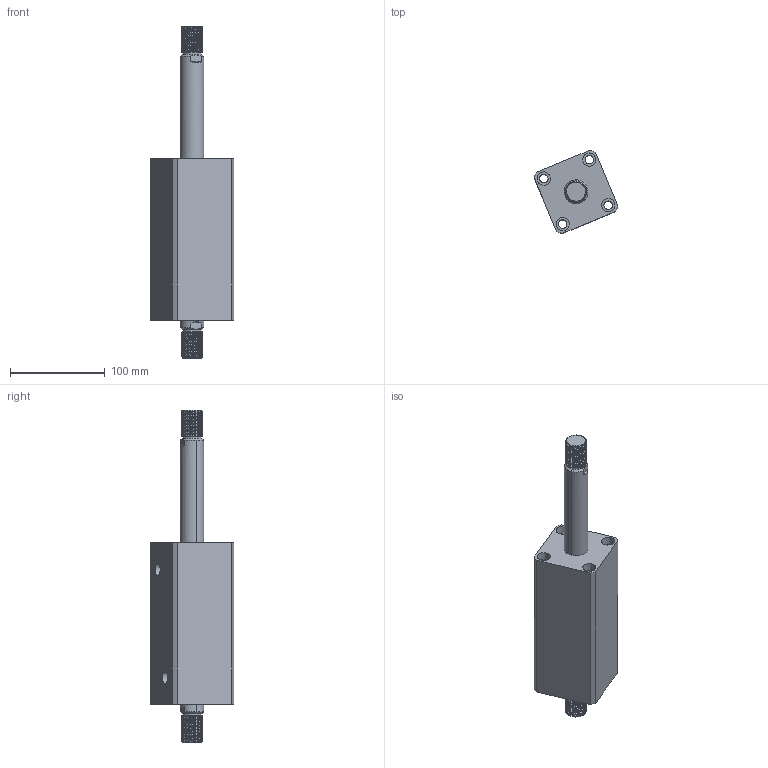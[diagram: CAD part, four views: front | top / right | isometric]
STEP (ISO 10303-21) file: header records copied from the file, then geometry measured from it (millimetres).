
FILE_DESCRIPTION (( 'STEP AP214' ), '1' );
FILE_NAME ('chtb-sw40x100w_asm.STEP', '2018-06-08T10:38:00', ( 'Windows' ), ( 'Microsoft' ), 'SwSTEP 2.0', 'SolidWorks 2015', '' );
FILE_SCHEMA (( 'AUTOMOTIVE_DESIGN' ));
Length unit declared in the file: millimetre
Products named in the file (4): CHTB-SD40QG; chtb-sw40x100w_asm; CHTB-SW40X100NHSG; CHTB-SW40X100NBT
Assembly tree (3 placements, depth 2):
  chtb-sw40x100w_asm
    CHTB-SD40QG
    CHTB-SW40X100NBT
    CHTB-SW40X100NHSG
Bounding box: 88.11 x 88.11 x 350 mm (x, y, z)
Volume: 775346.6 mm3; surface area: 139247.8 mm2
Topology: 3 solids, 3 shells, 254 faces, 680 edges, 452 vertices
Faces by surface type: cylinder 160, plane 46, bspline 18, cone 18, torus 12
Entity records: 17389 total; most frequent: CARTESIAN_POINT 11402, ORIENTED_EDGE 1348, DIRECTION 1094, EDGE_CURVE 674, VERTEX_POINT 452, AXIS2_PLACEMENT_3D 443, EDGE_LOOP 296, FACE_OUTER_BOUND 254
